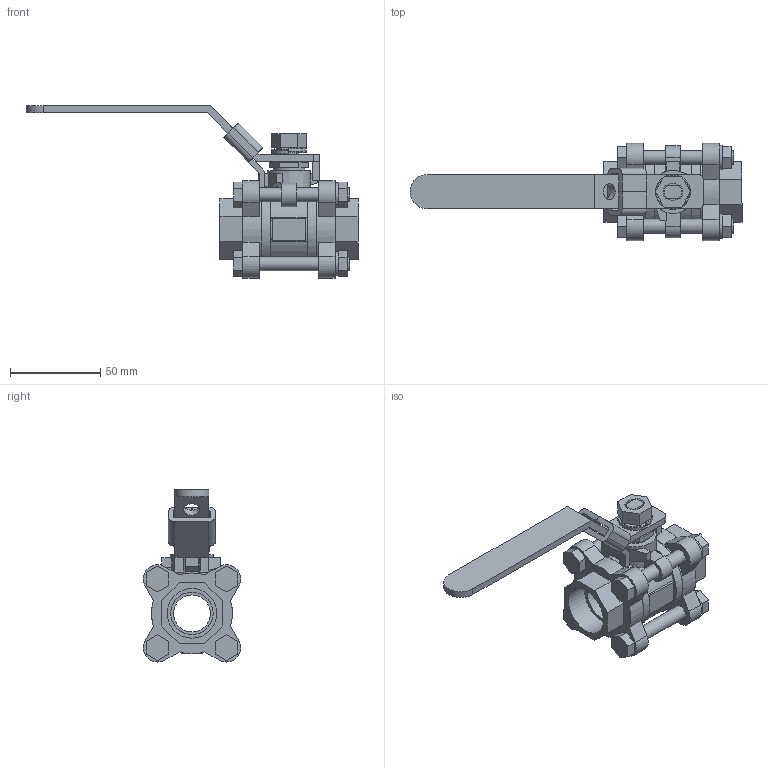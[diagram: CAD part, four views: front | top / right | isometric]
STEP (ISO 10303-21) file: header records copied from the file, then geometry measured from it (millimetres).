
FILE_DESCRIPTION((' '),'2;1');
FILE_NAME('N:\Technical Support\Private\Jomar Valve CAD\Ball Valves\CS and SS\1000N-4B\Socket Weld\.75 S-CS[SS]-1000N-4B (500-504 [500-344])FusionCopy.stp.step','2017-05-25T16:35:07',(' '),(' '),' ','ACIS',' ');
FILE_SCHEMA(('CONFIG_CONTROL_DESIGN'));
Length unit declared in the file: inch
Products named in the file (22): N:\Technical Support\Private\Jomar Valve CAD\Ball Valves\CS and SS\1000N-4B\Socket Weld\.75 S-CS[SS]-1000N-4B (500-504 [500-344])FusionCopy.stp.step; Body1; Body2; Body3; Body4; Body5; Body6; Body7; Body8; Body9; Body10; Body11; Body12; Body13; Body14; Body15; Body16; Body17; Body18; Body19; Body20; Body21
Assembly tree (21 placements, depth 2):
  N:\Technical Support\Private\Jomar Valve CAD\Ball Valves\CS and SS\1000N-4B\Socket Weld\.75 S-CS[SS]-1000N-4B (500-504 [500-344])FusionCopy.stp.step
    Body1
    Body2
    Body3
    Body4
    Body5
    Body6
    Body7
    Body8
    Body9
    Body10
    Body11
    Body12
    Body13
    Body14
    Body15
    Body16
    Body17
    Body18
    Body19
    Body20
    Body21
Bounding box: 183.77 x 53.86 x 95.29 mm (x, y, z)
Volume: 121301 mm3; surface area: 56667.4 mm2
Topology: 21 solids, 21 shells, 336 faces, 825 edges, 544 vertices
Faces by surface type: plane 158, bspline 114, cylinder 46, cone 10, torus 8
Full cylindrical faces by diameter (mm): 6.731 x2, 7.747 x2, 8.255 x2, 8.763 x4, 9.017 x1, 9.144 x1, 9.525 x1, 11.963 x2, 13.462 x2, 17.475 x1, 20.447 x1, 23.495 x1, 27.432 x1, 27.511 x1, 44.45 x1, 44.831 x1
Entity records: 13187 total; most frequent: CARTESIAN_POINT 2413, ORIENTED_EDGE 1540, DIRECTION 1504, EDGE_CURVE 770, VECTOR 546, LINE 546, VERTEX_POINT 532, AXIS2_PLACEMENT_3D 479
